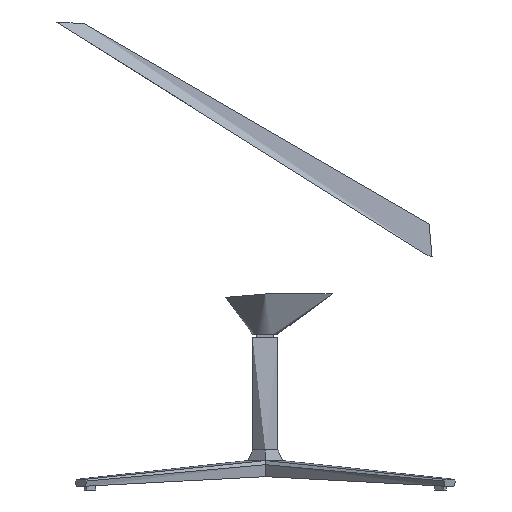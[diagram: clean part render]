
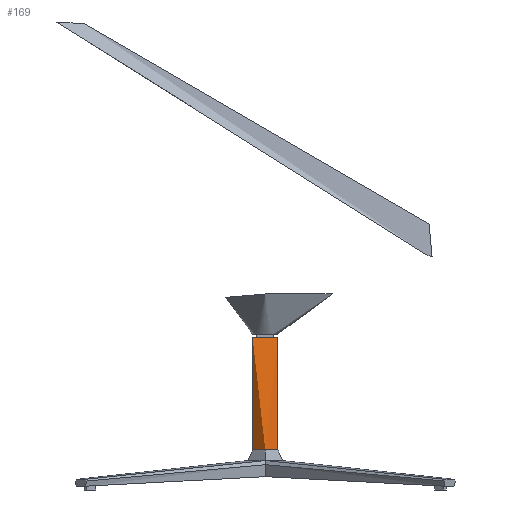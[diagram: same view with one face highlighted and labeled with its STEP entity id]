
A CAD part, left-side view. The second image highlights one B-rep face of the part: STEP entity #169.
In plain terms, the highlighted free-form (B-spline) face has degree [2, 1] with [5, 2] control points.
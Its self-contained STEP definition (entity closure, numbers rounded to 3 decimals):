
#169=ADVANCED_FACE('',(#240),#1011,.T.);
#240=FACE_OUTER_BOUND('',#312,.T.);
#312=EDGE_LOOP('',(#529,#530,#531,#532,#533));
#529=ORIENTED_EDGE('',*,*,#732,.T.);
#530=ORIENTED_EDGE('',*,*,#657,.T.);
#531=ORIENTED_EDGE('',*,*,#662,.T.);
#532=ORIENTED_EDGE('',*,*,#661,.T.);
#533=ORIENTED_EDGE('',*,*,#731,.F.);
#657=EDGE_CURVE('',#894,#895,#800,.T.);
#661=EDGE_CURVE('',#900,#903,#804,.T.);
#662=EDGE_CURVE('',#895,#900,#805,.T.);
#731=EDGE_CURVE('',#936,#903,#874,.T.);
#732=EDGE_CURVE('',#936,#894,#875,.T.);
#800=(
BOUNDED_CURVE()
B_SPLINE_CURVE(1,(#14901,#14902),.UNSPECIFIED.,.F.,.F.)
B_SPLINE_CURVE_WITH_KNOTS((2,2),(0.,177.),.UNSPECIFIED.)
CURVE()
GEOMETRIC_REPRESENTATION_ITEM()
RATIONAL_B_SPLINE_CURVE((1.,1.))
REPRESENTATION_ITEM('')
);
#804=(
BOUNDED_CURVE()
B_SPLINE_CURVE(2,(#14918,#14919,#14920),.UNSPECIFIED.,.F.,.F.)
B_SPLINE_CURVE_WITH_KNOTS((3,3),(31.416,62.832),
 .UNSPECIFIED.)
CURVE()
GEOMETRIC_REPRESENTATION_ITEM()
RATIONAL_B_SPLINE_CURVE((1.,0.707,1.))
REPRESENTATION_ITEM('')
);
#805=(
BOUNDED_CURVE()
B_SPLINE_CURVE(2,(#14921,#14922,#14923),.UNSPECIFIED.,.F.,.F.)
B_SPLINE_CURVE_WITH_KNOTS((3,3),(0.,31.416),.UNSPECIFIED.)
CURVE()
GEOMETRIC_REPRESENTATION_ITEM()
RATIONAL_B_SPLINE_CURVE((1.,0.707,1.))
REPRESENTATION_ITEM('')
);
#874=(
BOUNDED_CURVE()
B_SPLINE_CURVE(1,(#17104,#17105),.UNSPECIFIED.,.F.,.F.)
B_SPLINE_CURVE_WITH_KNOTS((2,2),(0.,177.),.UNSPECIFIED.)
CURVE()
GEOMETRIC_REPRESENTATION_ITEM()
RATIONAL_B_SPLINE_CURVE((1.,1.))
REPRESENTATION_ITEM('')
);
#875=(
BOUNDED_CURVE()
B_SPLINE_CURVE(2,(#17106,#17107,#17108,#17109,#17110),.UNSPECIFIED.,.F.,
 .F.)
B_SPLINE_CURVE_WITH_KNOTS((3,2,3),(-62.832,-31.416,
0.),.UNSPECIFIED.)
CURVE()
GEOMETRIC_REPRESENTATION_ITEM()
RATIONAL_B_SPLINE_CURVE((1.,0.707,1.,0.707,1.))
REPRESENTATION_ITEM('')
);
#894=VERTEX_POINT('',#14853);
#895=VERTEX_POINT('',#14854);
#900=VERTEX_POINT('',#14859);
#903=VERTEX_POINT('',#14862);
#936=VERTEX_POINT('',#14895);
#1011=(
BOUNDED_SURFACE()
B_SPLINE_SURFACE(2,1,((#14843,#14844),(#14845,#14846),(#14847,#14848),(#14849,
#14850),(#14851,#14852)),.UNSPECIFIED.,.F.,.F.,.F.)
B_SPLINE_SURFACE_WITH_KNOTS((3,2,3),(2,2),(-62.832,-31.416,
0.),(0.,177.),.UNSPECIFIED.)
GEOMETRIC_REPRESENTATION_ITEM()
RATIONAL_B_SPLINE_SURFACE(((1.,1.),(0.707,0.707),
(1.,1.),(0.707,0.707),(1.,1.)))
REPRESENTATION_ITEM('')
SURFACE()
);
#14843=CARTESIAN_POINT('',(0.,-20.,240.));
#14844=CARTESIAN_POINT('',(0.,-20.,63.));
#14845=CARTESIAN_POINT('',(-20.,-20.,240.));
#14846=CARTESIAN_POINT('',(-20.,-20.,63.));
#14847=CARTESIAN_POINT('',(-20.,0.,240.));
#14848=CARTESIAN_POINT('',(-20.,0.,63.));
#14849=CARTESIAN_POINT('',(-20.,20.,240.));
#14850=CARTESIAN_POINT('',(-20.,20.,63.));
#14851=CARTESIAN_POINT('',(0.,20.,240.));
#14852=CARTESIAN_POINT('',(0.,20.,63.));
#14853=CARTESIAN_POINT('',(0.,20.,240.));
#14854=CARTESIAN_POINT('',(0.,20.,63.));
#14859=CARTESIAN_POINT('',(-20.,0.,63.));
#14862=CARTESIAN_POINT('',(0.,-20.,63.));
#14895=CARTESIAN_POINT('',(0.,-20.,240.));
#14901=CARTESIAN_POINT('',(0.,20.,240.));
#14902=CARTESIAN_POINT('',(0.,20.,63.));
#14918=CARTESIAN_POINT('',(-20.,0.,63.));
#14919=CARTESIAN_POINT('',(-20.,-20.,63.));
#14920=CARTESIAN_POINT('',(0.,-20.,63.));
#14921=CARTESIAN_POINT('',(0.,20.,63.));
#14922=CARTESIAN_POINT('',(-20.,20.,63.));
#14923=CARTESIAN_POINT('',(-20.,0.,63.));
#17104=CARTESIAN_POINT('',(0.,-20.,240.));
#17105=CARTESIAN_POINT('',(0.,-20.,63.));
#17106=CARTESIAN_POINT('',(0.,-20.,240.));
#17107=CARTESIAN_POINT('',(-20.,-20.,240.));
#17108=CARTESIAN_POINT('',(-20.,0.,240.));
#17109=CARTESIAN_POINT('',(-20.,20.,240.));
#17110=CARTESIAN_POINT('',(0.,20.,240.));
